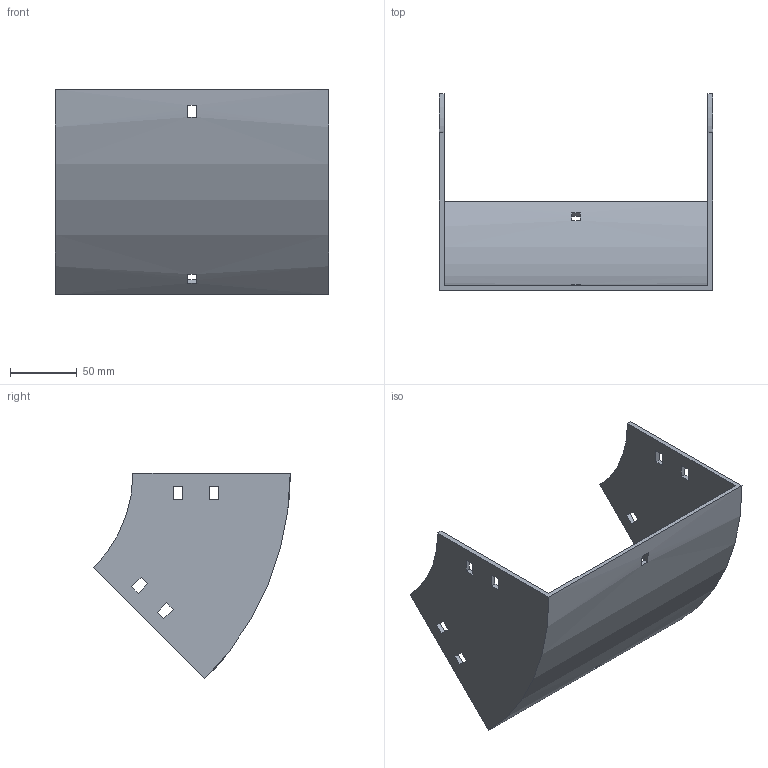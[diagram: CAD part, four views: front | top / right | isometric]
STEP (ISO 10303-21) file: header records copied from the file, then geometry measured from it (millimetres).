
FILE_DESCRIPTION (( 'STEP AP214' ), '1' );
FILE_NAME ('31B1J200.step', '2025-02-21T09:46:05', ( '' ), ( '' ), 'SwSTEP 2.0', 'SolidWorks 2023', '' );
FILE_SCHEMA (( 'AUTOMOTIVE_DESIGN' ));
Length unit declared in the file: millimetre
Products named in the file (1): 31B1J200
Bounding box: 204 x 146.79 x 153.8 mm (x, y, z)
Volume: 217015.7 mm3; surface area: 128762 mm2
Topology: 1 solids, 1 shells, 50 faces, 144 edges, 96 vertices
Faces by surface type: plane 46, cylinder 4
Entity records: 1687 total; most frequent: CARTESIAN_POINT 291, ORIENTED_EDGE 288, DIRECTION 262, EDGE_CURVE 144, VECTOR 128, LINE 128, VERTEX_POINT 96, EDGE_LOOP 70
